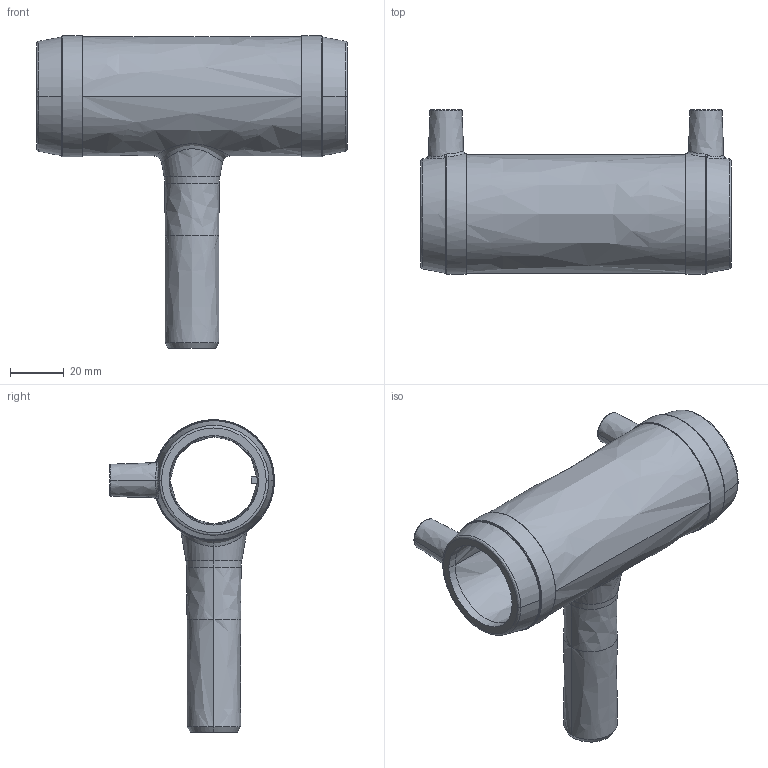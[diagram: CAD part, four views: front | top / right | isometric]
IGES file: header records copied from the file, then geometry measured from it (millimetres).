
Start section:  PTC IGES file: ta_red_d32-20_01.igs
Global section: file name: ta_red_d32-20_01.igs; native system: Pro/ENGINEER by Parametric Technology Corporation; preprocessor: 2011490; author: mtunjic; organization: Unknown; date: 20130812.132643; units: millimetre
Bounding box: 116 x 61.5 x 116.6 mm (x, y, z)
Surface area: 38125.3 mm2 (no closed solid volume)
Topology: 0 solids, 0 shells, 207 faces, 1026 edges, 1026 vertices
Faces by surface type: bspline 207
